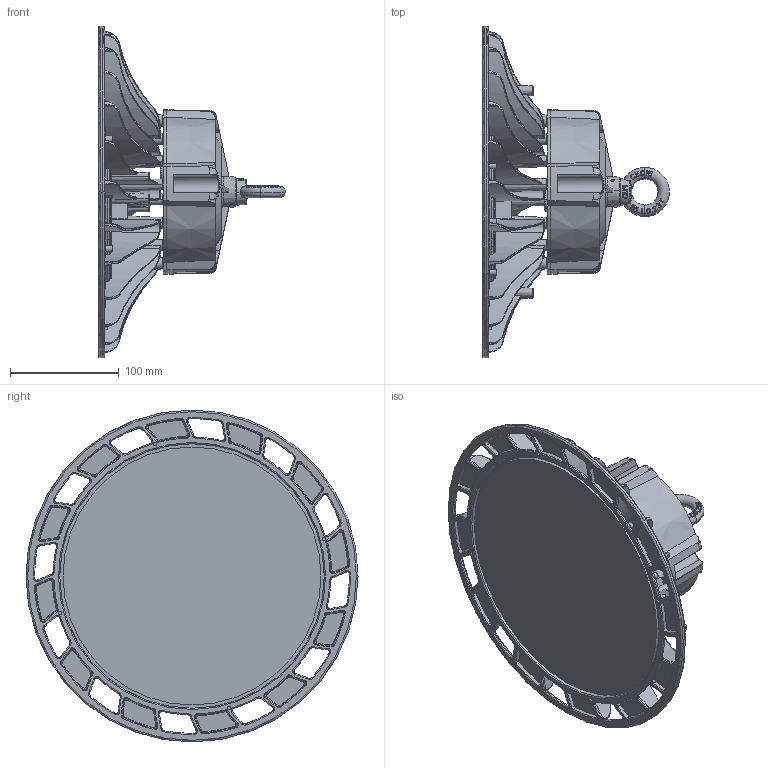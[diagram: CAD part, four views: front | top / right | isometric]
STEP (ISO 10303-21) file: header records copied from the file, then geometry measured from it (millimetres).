
FILE_DESCRIPTION(('Creo Elements/Direct Modeling STEP Export'),'2;1');
FILE_NAME('H040E-150W.stp','2020-04-07T 7:32:54',(''),(''),'PTC Creo Elements/Direct Modeling STEP processor for AP214 (Solid Model)','PTC Creo Elements/Direct Modeling 19.0E 27-Jun-2016 (C) Parametric Technology GmbH','');
FILE_SCHEMA(('AUTOMOTIVE_DESIGN { 1 0 10303 214 1 1 1 1 }'));
Products named in the file (2): H040E-150W
Assembly tree (1 placements, depth 2):
  H040E-150W
    H040E-150W
Bounding box: 171.5 x 305 x 305 mm (x, y, z)
Surface area: 461089.7 mm2 (no closed solid volume)
Topology: 0 solids, 23 shells, 2262 faces, 6067 edges, 3917 vertices
Faces by surface type: plane 707, cone 404, cylinder 393, bspline 390, torus 366, sphere 2
Entity records: 107896 total; most frequent: CARTESIAN_POINT 57967, ORIENTED_EDGE 12131, DIRECTION 8328, EDGE_CURVE 6067, VERTEX_POINT 3917, AXIS2_PLACEMENT_3D 3719, B_SPLINE_CURVE_WITH_KNOTS 2850, EDGE_LOOP 2396
